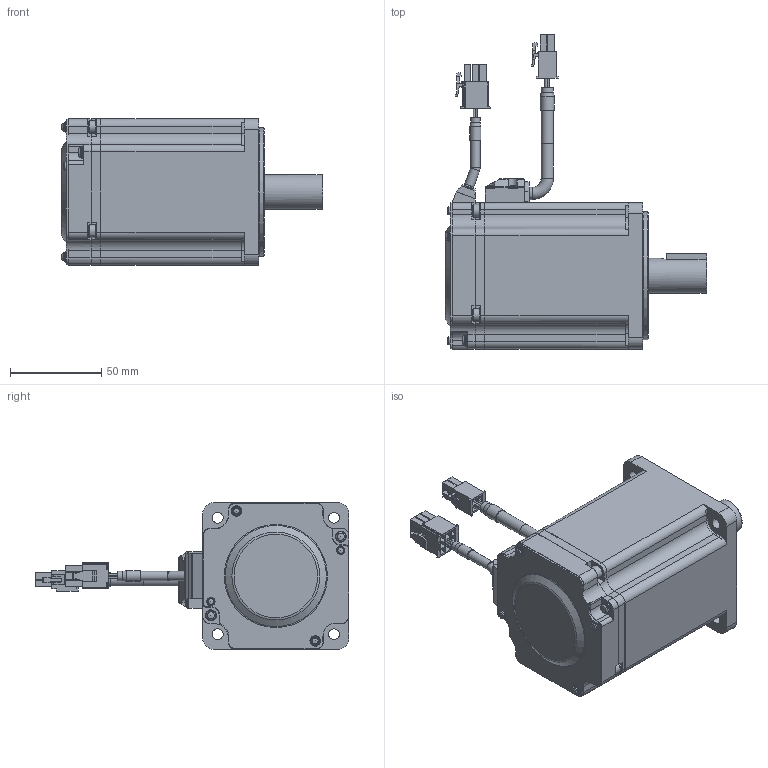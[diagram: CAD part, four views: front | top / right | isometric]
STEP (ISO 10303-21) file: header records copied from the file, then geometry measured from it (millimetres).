
FILE_DESCRIPTION( ( 'STEP AP214' ), '1' );
FILE_NAME( 'p:/temp/worker_3/temp/app_51_0201906101627428391634010e898ce_000000_00_00_000000/format_0/MHMF092L1U2 2.stp', '2019-06-10T14:27:45', ( '' ), ( '' ), ' ', 'PARTsolutions', ' ' );
FILE_SCHEMA( ( 'AUTOMOTIVE_DESIGN { 1 0 10303 214 1 1 1 1 }' ) );
Length unit declared in the file: millimetre
Products named in the file (8): MHMF092L1U2 2; _MHMF092L1U2; _Cable Motor Bottom 06; _Cable Motor Top 06; _Motor Connector_2; _Cable Brake Bottom 06; _Cable Brake Top 06; _MHMF Connector 9 Pin_A6
Assembly tree (7 placements, depth 2):
  MHMF092L1U2 2
    _MHMF092L1U2
    _Cable Motor Bottom 06
    _Cable Motor Top 06
    _Motor Connector_2
    _Cable Brake Bottom 06
    _Cable Brake Top 06
    _MHMF Connector 9 Pin_A6
Bounding box: 143.2 x 171.65 x 80 mm (x, y, z)
Volume: 638472.6 mm3; surface area: 63161.4 mm2
Topology: 7 solids, 7 shells, 799 faces, 2053 edges, 1342 vertices
Faces by surface type: plane 515, cylinder 226, cone 29, torus 17, sphere 12
Full cylindrical faces by diameter (mm): 1 x8, 1.82 x4, 2.6 x13, 4.134 x1, 4.3 x4, 4.5 x2, 5.1 x3, 5.2 x2, 5.7 x2, 5.9 x2, 6 x7, 6.7 x4, 7 x4, 7.6 x1, 8 x4, 19 x1, 19.8 x1, 23 x1, 70 x1
Entity records: 29971 total; most frequent: CARTESIAN_POINT 4156, DIRECTION 4031, ORIENTED_EDGE 3802, EDGE_CURVE 1901, LINE 1351, VECTOR 1351, AXIS2_PLACEMENT_3D 1340, VERTEX_POINT 1325
